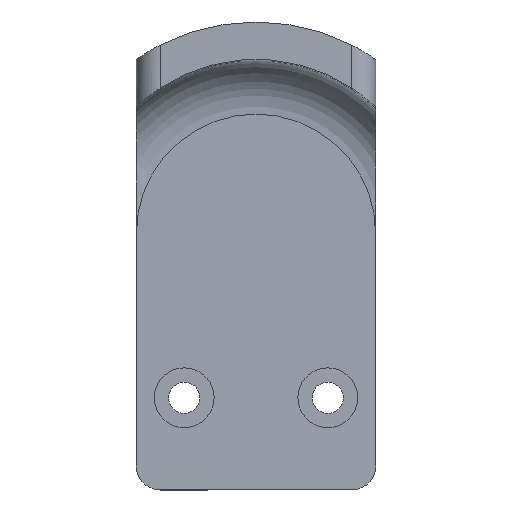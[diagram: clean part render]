
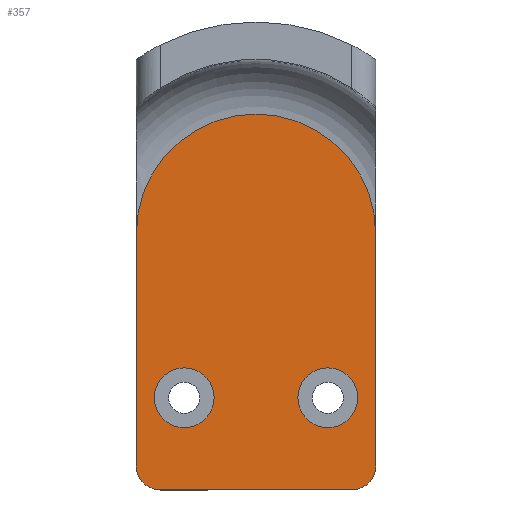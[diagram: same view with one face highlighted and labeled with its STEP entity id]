
A CAD part, top view. The second image highlights one B-rep face of the part: STEP entity #357.
In plain terms, the highlighted planar face has unit normal (0, 0, 1).
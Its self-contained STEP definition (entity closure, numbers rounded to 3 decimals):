
#16=FACE_BOUND('',#73,.T.);
#17=FACE_BOUND('',#74,.T.);
#38=PLANE('',#398);
#51=FACE_OUTER_BOUND('',#72,.T.);
#72=EDGE_LOOP('',(#278,#279,#280,#281,#282,#283));
#73=EDGE_LOOP('',(#284));
#74=EDGE_LOOP('',(#285));
#95=LINE('',#531,#117);
#105=LINE('',#621,#127);
#106=LINE('',#686,#128);
#117=VECTOR('',#434,10.);
#127=VECTOR('',#452,10.);
#128=VECTOR('',#465,1000.);
#137=CIRCLE('',#387,2.);
#139=CIRCLE('',#391,2.);
#142=CIRCLE('',#397,10.);
#143=CIRCLE('',#399,2.5);
#144=CIRCLE('',#400,2.5);
#155=VERTEX_POINT('',#522);
#156=VERTEX_POINT('',#524);
#158=VERTEX_POINT('',#530);
#166=VERTEX_POINT('',#574);
#167=VERTEX_POINT('',#576);
#174=VERTEX_POINT('',#604);
#177=VERTEX_POINT('',#687);
#178=VERTEX_POINT('',#689);
#189=EDGE_CURVE('',#156,#155,#137,.T.);
#192=EDGE_CURVE('',#156,#158,#95,.T.);
#201=EDGE_CURVE('',#167,#166,#139,.T.);
#210=EDGE_CURVE('',#174,#166,#105,.T.);
#217=EDGE_CURVE('',#158,#174,#142,.T.);
#218=EDGE_CURVE('',#167,#155,#106,.T.);
#219=EDGE_CURVE('',#177,#177,#143,.T.);
#220=EDGE_CURVE('',#178,#178,#144,.T.);
#278=ORIENTED_EDGE('',*,*,#217,.F.);
#279=ORIENTED_EDGE('',*,*,#192,.F.);
#280=ORIENTED_EDGE('',*,*,#189,.T.);
#281=ORIENTED_EDGE('',*,*,#218,.F.);
#282=ORIENTED_EDGE('',*,*,#201,.T.);
#283=ORIENTED_EDGE('',*,*,#210,.F.);
#284=ORIENTED_EDGE('',*,*,#219,.F.);
#285=ORIENTED_EDGE('',*,*,#220,.F.);
#357=ADVANCED_FACE('',(#51,#16,#17),#38,.T.);
#387=AXIS2_PLACEMENT_3D('',#525,#428,#429);
#391=AXIS2_PLACEMENT_3D('',#577,#443,#444);
#397=AXIS2_PLACEMENT_3D('',#684,#461,#462);
#398=AXIS2_PLACEMENT_3D('',#685,#463,#464);
#399=AXIS2_PLACEMENT_3D('',#688,#466,#467);
#400=AXIS2_PLACEMENT_3D('',#690,#468,#469);
#428=DIRECTION('center_axis',(0.,0.,
1.));
#429=DIRECTION('ref_axis',(0.,-1.,0.));
#434=DIRECTION('',(0.,1.,0.));
#443=DIRECTION('center_axis',(0.,0.,
1.));
#444=DIRECTION('ref_axis',(0.,-1.,0.));
#452=DIRECTION('',(0.,-1.,0.));
#461=DIRECTION('center_axis',(0.,0.,
-1.));
#462=DIRECTION('ref_axis',(0.,1.,0.));
#463=DIRECTION('center_axis',(0.,0.,
1.));
#464=DIRECTION('ref_axis',(0.,-1.,0.));
#465=DIRECTION('',(-1.,0.,0.));
#466=DIRECTION('center_axis',(0.,0.,
1.));
#467=DIRECTION('ref_axis',(0.,-1.,0.));
#468=DIRECTION('center_axis',(0.,0.,
1.));
#469=DIRECTION('ref_axis',(0.,-1.,0.));
#522=CARTESIAN_POINT('',(72.,8.1,61.1));
#524=CARTESIAN_POINT('',(70.,10.1,61.1));
#525=CARTESIAN_POINT('Origin',(72.,10.1,61.1));
#530=CARTESIAN_POINT('',(70.,29.5,61.1));
#531=CARTESIAN_POINT('',(70.,27.15,61.1));
#574=CARTESIAN_POINT('',(90.,10.1,61.1));
#576=CARTESIAN_POINT('',(88.,8.1,61.1));
#577=CARTESIAN_POINT('Origin',(88.,10.1,61.1));
#604=CARTESIAN_POINT('',(90.,29.5,61.1));
#621=CARTESIAN_POINT('',(90.,17.3,61.1));
#684=CARTESIAN_POINT('Origin',(80.,29.5,61.1));
#685=CARTESIAN_POINT('Origin',(80.,15.3,61.1));
#686=CARTESIAN_POINT('',(80.,8.1,61.1));
#687=CARTESIAN_POINT('',(74.,18.3,61.1));
#688=CARTESIAN_POINT('Origin',(74.,15.8,61.1));
#689=CARTESIAN_POINT('',(86.,18.3,61.1));
#690=CARTESIAN_POINT('Origin',(86.,15.8,61.1));
